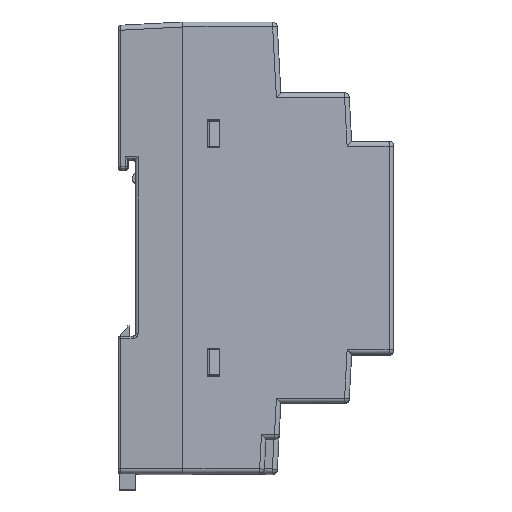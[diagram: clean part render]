
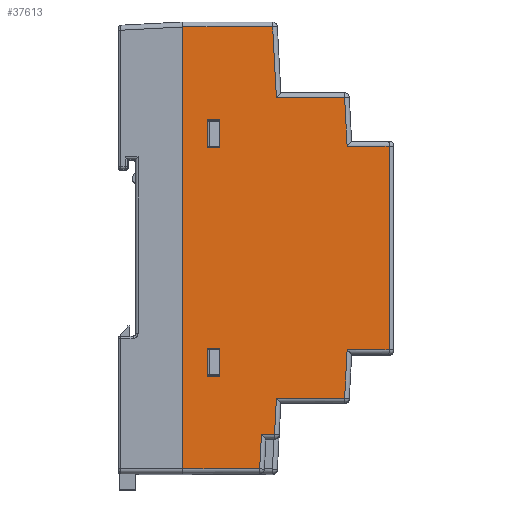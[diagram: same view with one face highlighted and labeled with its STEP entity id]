
A CAD part, top view. The second image highlights one B-rep face of the part: STEP entity #37613.
In plain terms, the highlighted planar face has unit normal (0.052, 0, 0.999) as drawn and (-0.999, 0, 0.052) by its records, which use the part's own axes.
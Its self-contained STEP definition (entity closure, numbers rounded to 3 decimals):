
#16692=DIRECTION('',(-0.003,-0.999,-0.052));
#16693=VECTOR('',#16692,7.01);
#16694=CARTESIAN_POINT('',(-44.169,-37.5,15.853));
#16695=LINE('',#16694,#16693);
#16696=DIRECTION('',(0.,1.,0.));
#16697=VECTOR('',#16696,89.);
#16698=CARTESIAN_POINT('',(-45.,-44.5,0.));
#16699=LINE('',#16698,#16697);
#16700=DIRECTION('',(0.003,-0.999,0.052));
#16701=VECTOR('',#16700,14.27);
#16702=CARTESIAN_POINT('',(-44.051,44.5,18.107));
#16703=LINE('',#16702,#16701);
#16704=DIRECTION('',(0.003,-0.999,0.052));
#16705=VECTOR('',#16704,9.763);
#16706=CARTESIAN_POINT('',(-43.292,30.25,32.592));
#16707=LINE('',#16706,#16705);
#16708=DIRECTION('',(-0.003,-0.999,-0.052));
#16709=VECTOR('',#16708,9.763);
#16710=CARTESIAN_POINT('',(-43.265,-20.5,33.103));
#16711=LINE('',#16710,#16709);
#16712=DIRECTION('',(-0.003,-0.999,-0.052));
#16713=VECTOR('',#16712,7.26);
#16714=CARTESIAN_POINT('',(-44.012,-30.25,18.853));
#16715=LINE('',#16714,#16713);
#16716=DIRECTION('',(0.052,0.,0.999));
#16717=VECTOR('',#16716,2.624);
#16718=CARTESIAN_POINT('',(-44.169,-37.5,15.853));
#16719=LINE('',#16718,#16717);
#16765=DIRECTION('',(0.052,0.,0.999));
#16766=VECTOR('',#16765,13.758);
#16767=CARTESIAN_POINT('',(-44.012,-30.25,18.853));
#16768=LINE('',#16767,#16766);
#16818=DIRECTION('',(0.052,0.,0.999));
#16819=VECTOR('',#16818,8.461);
#16820=CARTESIAN_POINT('',(-43.265,-20.5,33.103));
#16821=LINE('',#16820,#16819);
#17302=DIRECTION('',(0.,1.,0.));
#17303=VECTOR('',#17302,41.);
#17304=CARTESIAN_POINT('',(-42.822,-20.5,41.552));
#17305=LINE('',#17304,#17303);
#17325=DIRECTION('',(-0.052,0.,
-0.999));
#17326=VECTOR('',#17325,8.461);
#17327=CARTESIAN_POINT('',(-42.822,20.5,41.552));
#17328=LINE('',#17327,#17326);
#17358=DIRECTION('',(-0.052,0.,
-0.999));
#17359=VECTOR('',#17358,13.758);
#17360=CARTESIAN_POINT('',(-43.292,30.25,32.592));
#17361=LINE('',#17360,#17359);
#17391=DIRECTION('',(-0.052,0.,
-0.999));
#17392=VECTOR('',#17391,18.131);
#17393=CARTESIAN_POINT('',(-44.051,44.5,18.107));
#17394=LINE('',#17393,#17392);
#17435=DIRECTION('',(0.052,0.,0.999));
#17436=VECTOR('',#17435,15.508);
#17437=CARTESIAN_POINT('',(-45.,-44.5,0.));
#17438=LINE('',#17437,#17436);
#19292=DIRECTION('',(-0.052,0.,-0.999));
#19293=VECTOR('',#19292,2.553);
#19294=CARTESIAN_POINT('',(-44.607,-25.83,7.5));
#19295=LINE('',#19294,#19293);
#19300=DIRECTION('',(0.,1.,0.));
#19301=VECTOR('',#19300,5.66);
#19302=CARTESIAN_POINT('',(-44.741,-25.83,4.95));
#19303=LINE('',#19302,#19301);
#19325=DIRECTION('',(0.052,0.,0.999));
#19326=VECTOR('',#19325,2.553);
#19327=CARTESIAN_POINT('',(-44.741,-20.17,4.95));
#19328=LINE('',#19327,#19326);
#19337=DIRECTION('',(0.,-1.,0.));
#19338=VECTOR('',#19337,5.66);
#19339=CARTESIAN_POINT('',(-44.607,-20.17,7.5));
#19340=LINE('',#19339,#19338);
#19370=DIRECTION('',(-0.052,0.,-0.999));
#19371=VECTOR('',#19370,2.553);
#19372=CARTESIAN_POINT('',(-44.607,20.17,7.5));
#19373=LINE('',#19372,#19371);
#19378=DIRECTION('',(0.,1.,0.));
#19379=VECTOR('',#19378,5.66);
#19380=CARTESIAN_POINT('',(-44.741,20.17,4.95));
#19381=LINE('',#19380,#19379);
#19403=DIRECTION('',(0.052,0.,0.999));
#19404=VECTOR('',#19403,2.553);
#19405=CARTESIAN_POINT('',(-44.741,25.83,4.95));
#19406=LINE('',#19405,#19404);
#19419=DIRECTION('',(0.,-1.,0.));
#19420=VECTOR('',#19419,5.66);
#19421=CARTESIAN_POINT('',(-44.607,25.83,7.5));
#19422=LINE('',#19421,#19420);
#33888=CARTESIAN_POINT('',(-44.169,-37.5,15.853));
#33889=CARTESIAN_POINT('',(-44.032,-37.5,18.473));
#33890=VERTEX_POINT('',#33888);
#33891=VERTEX_POINT('',#33889);
#33892=CARTESIAN_POINT('',(-44.188,-44.5,15.487));
#33893=VERTEX_POINT('',#33892);
#33894=CARTESIAN_POINT('',(-45.,-44.5,0.));
#33895=VERTEX_POINT('',#33894);
#33896=CARTESIAN_POINT('',(-45.,44.5,0.));
#33897=VERTEX_POINT('',#33896);
#33898=CARTESIAN_POINT('',(-44.051,44.5,18.107));
#33899=VERTEX_POINT('',#33898);
#33900=CARTESIAN_POINT('',(-44.012,30.25,18.853));
#33901=VERTEX_POINT('',#33900);
#33902=CARTESIAN_POINT('',(-43.292,30.25,32.592));
#33903=VERTEX_POINT('',#33902);
#33904=CARTESIAN_POINT('',(-43.265,20.5,33.103));
#33905=VERTEX_POINT('',#33904);
#33906=CARTESIAN_POINT('',(-42.822,20.5,41.552));
#33907=VERTEX_POINT('',#33906);
#33908=CARTESIAN_POINT('',(-42.822,-20.5,41.552));
#33909=VERTEX_POINT('',#33908);
#33910=CARTESIAN_POINT('',(-43.265,-20.5,33.103));
#33911=VERTEX_POINT('',#33910);
#33912=CARTESIAN_POINT('',(-43.292,-30.25,32.592));
#33913=VERTEX_POINT('',#33912);
#33914=CARTESIAN_POINT('',(-44.012,-30.25,18.853));
#33915=VERTEX_POINT('',#33914);
#33916=CARTESIAN_POINT('',(-44.607,25.83,7.5));
#33917=CARTESIAN_POINT('',(-44.607,20.17,7.5));
#33918=VERTEX_POINT('',#33916);
#33919=VERTEX_POINT('',#33917);
#33920=CARTESIAN_POINT('',(-44.741,25.83,4.95));
#33921=VERTEX_POINT('',#33920);
#33922=CARTESIAN_POINT('',(-44.741,20.17,4.95));
#33923=VERTEX_POINT('',#33922);
#33924=CARTESIAN_POINT('',(-44.607,-20.17,7.5));
#33925=CARTESIAN_POINT('',(-44.607,-25.83,7.5));
#33926=VERTEX_POINT('',#33924);
#33927=VERTEX_POINT('',#33925);
#33928=CARTESIAN_POINT('',(-44.741,-20.17,4.95));
#33929=VERTEX_POINT('',#33928);
#33930=CARTESIAN_POINT('',(-44.741,-25.83,4.95));
#33931=VERTEX_POINT('',#33930);
#37558=CARTESIAN_POINT('',(-45.,-47.118,0.));
#37559=DIRECTION('',(0.999,0.,-0.052));
#37560=DIRECTION('',(0.,-1.,0.));
#37561=AXIS2_PLACEMENT_3D('',#37558,#37559,#37560);
#37562=PLANE('',#37561);
#37564=ORIENTED_EDGE('',*,*,#37563,.F.);
#37566=ORIENTED_EDGE('',*,*,#37565,.T.);
#37568=ORIENTED_EDGE('',*,*,#37567,.F.);
#37570=ORIENTED_EDGE('',*,*,#37569,.T.);
#37572=ORIENTED_EDGE('',*,*,#37571,.F.);
#37574=ORIENTED_EDGE('',*,*,#37573,.T.);
#37576=ORIENTED_EDGE('',*,*,#37575,.F.);
#37578=ORIENTED_EDGE('',*,*,#37577,.T.);
#37580=ORIENTED_EDGE('',*,*,#37579,.F.);
#37582=ORIENTED_EDGE('',*,*,#37581,.F.);
#37584=ORIENTED_EDGE('',*,*,#37583,.F.);
#37586=ORIENTED_EDGE('',*,*,#37585,.T.);
#37588=ORIENTED_EDGE('',*,*,#37587,.F.);
#37590=ORIENTED_EDGE('',*,*,#37589,.T.);
#37591=EDGE_LOOP('',(#37564,#37566,#37568,#37570,#37572,#37574,#37576,#37578,
#37580,#37582,#37584,#37586,#37588,#37590));
#37592=FACE_OUTER_BOUND('',#37591,.F.);
#37594=ORIENTED_EDGE('',*,*,#37593,.F.);
#37596=ORIENTED_EDGE('',*,*,#37595,.F.);
#37598=ORIENTED_EDGE('',*,*,#37597,.F.);
#37600=ORIENTED_EDGE('',*,*,#37599,.F.);
#37601=EDGE_LOOP('',(#37594,#37596,#37598,#37600));
#37602=FACE_BOUND('',#37601,.F.);
#37604=ORIENTED_EDGE('',*,*,#37603,.F.);
#37606=ORIENTED_EDGE('',*,*,#37605,.F.);
#37608=ORIENTED_EDGE('',*,*,#37607,.F.);
#37610=ORIENTED_EDGE('',*,*,#37609,.F.);
#37611=EDGE_LOOP('',(#37604,#37606,#37608,#37610));
#37612=FACE_BOUND('',#37611,.F.);
#37613=ADVANCED_FACE('',(#37592,#37602,#37612),#37562,.F.);
#37563=EDGE_CURVE('',#33890,#33891,#16719,.T.);
#37565=EDGE_CURVE('',#33890,#33893,#16695,.T.);
#37567=EDGE_CURVE('',#33895,#33893,#17438,.T.);
#37569=EDGE_CURVE('',#33895,#33897,#16699,.T.);
#37571=EDGE_CURVE('',#33899,#33897,#17394,.T.);
#37573=EDGE_CURVE('',#33899,#33901,#16703,.T.);
#37575=EDGE_CURVE('',#33903,#33901,#17361,.T.);
#37577=EDGE_CURVE('',#33903,#33905,#16707,.T.);
#37579=EDGE_CURVE('',#33907,#33905,#17328,.T.);
#37581=EDGE_CURVE('',#33909,#33907,#17305,.T.);
#37583=EDGE_CURVE('',#33911,#33909,#16821,.T.);
#37585=EDGE_CURVE('',#33911,#33913,#16711,.T.);
#37587=EDGE_CURVE('',#33915,#33913,#16768,.T.);
#37589=EDGE_CURVE('',#33915,#33891,#16715,.T.);
#37593=EDGE_CURVE('',#33918,#33919,#19422,.T.);
#37595=EDGE_CURVE('',#33921,#33918,#19406,.T.);
#37597=EDGE_CURVE('',#33923,#33921,#19381,.T.);
#37599=EDGE_CURVE('',#33919,#33923,#19373,.T.);
#37603=EDGE_CURVE('',#33926,#33927,#19340,.T.);
#37605=EDGE_CURVE('',#33929,#33926,#19328,.T.);
#37607=EDGE_CURVE('',#33931,#33929,#19303,.T.);
#37609=EDGE_CURVE('',#33927,#33931,#19295,.T.);
